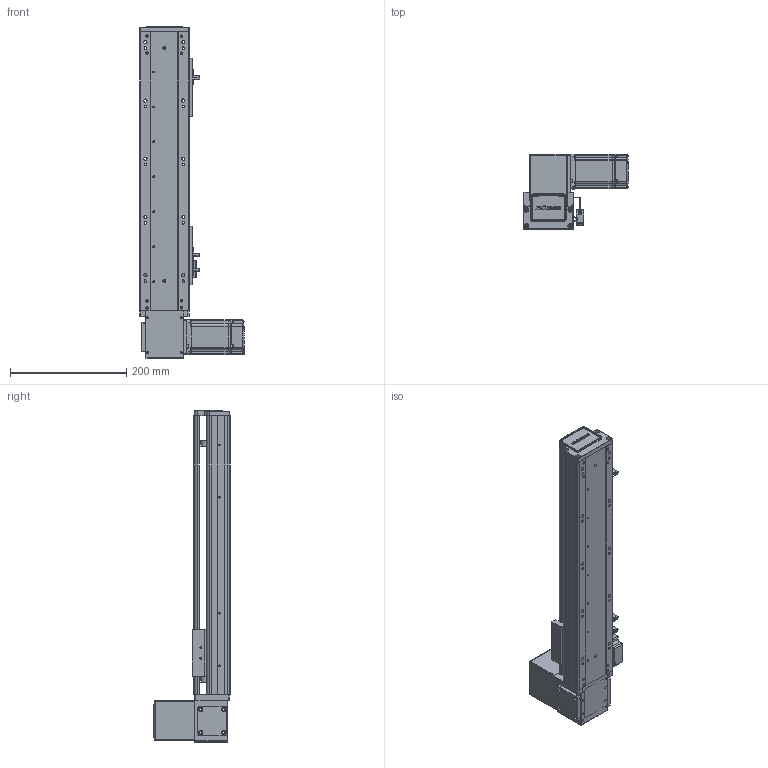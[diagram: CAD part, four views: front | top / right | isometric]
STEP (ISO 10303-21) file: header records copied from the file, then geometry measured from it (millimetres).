
FILE_DESCRIPTION (( 'STEP AP203' ), '1' );
FILE_NAME ('RY80-T-300-UR.SLDASM_300.step', '2021-03-01T02:25:23', ( '盈信电脑' ), ( '东莞市道滘镇水果街19号' ), 'SwSTEP 2.0', 'SolidWorks 2012', '' );
FILE_SCHEMA (( 'CONFIG_CONTROL_DESIGN' ));
Products named in the file (20): RY80-T-300-UR.SLDASM_300; 1; RY80-T肮祭謫奻殏俋欶; RY80-T-M4蹟翐2; RY80-T萇儂假蚾啣; RY80-T翋肮祭謫裔啣; RY80-T-上下折同步轮盖板; RY100-T粣創揤踡裔; RY80-T肮祭湍揤輸2; 滅袉蝶18-10; RY80-T肮祭湍揤輸1; RY80-T粣創揤踡輸; RY80俋离覜茼え; RY80-T-翋肮祭謫釱; 覜茼ん672; 672嫖萇羲壽假蚾釱; RY80-T-300-UR倰第菁釱; RY80-T綴裔啣; RY80-T-300-UR倰第奻裔啣; RY80-T肮祭謫臏賑輸
Assembly tree (23 placements, depth 2):
  RY80-T-300-UR.SLDASM_300
    RY80-T-300-UR倰第菁釱
    RY80-T肮祭謫臏賑輸
    RY80-T-300-UR倰第奻裔啣
    RY80-T綴裔啣
    672嫖萇羲壽假蚾釱  x2
    覜茼ん672  x3
    RY80俋离覜茼え
    RY80-T-翋肮祭謫釱
    RY80-T肮祭湍揤輸1
    RY80-T肮祭湍揤輸2
    RY80-T粣創揤踡輸
    滅袉蝶18-10  x2
    RY100-T粣創揤踡裔
    RY80-T翋肮祭謫裔啣
    RY80-T-上下折同步轮盖板
    1
    RY80-T肮祭謫奻殏俋欶
    RY80-T-M4蹟翐2
    RY80-T萇儂假蚾啣
Bounding box: 180 x 130.5 x 570 mm (x, y, z)
Volume: 1284452.5 mm3; surface area: 508049 mm2
Topology: 23 solids, 23 shells, 2393 faces, 6565 edges, 4264 vertices
Faces by surface type: plane 1323, cylinder 876, cone 138, bspline 56
Entity records: 75310 total; most frequent: CARTESIAN_POINT 17560, ORIENTED_EDGE 11774, DIRECTION 11192, EDGE_CURVE 5887, VERTEX_POINT 3868, AXIS2_PLACEMENT_3D 3736, LINE 3720, VECTOR 3720
